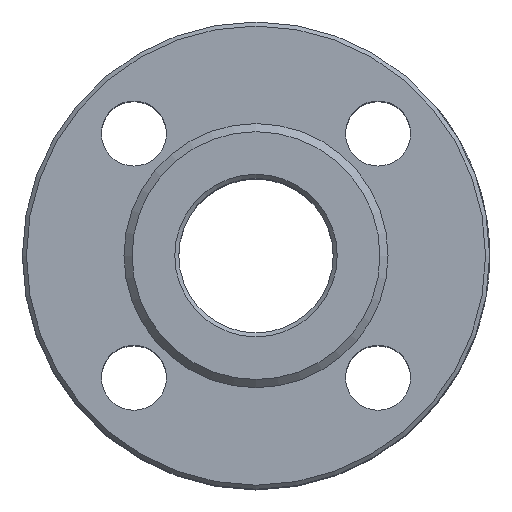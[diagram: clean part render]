
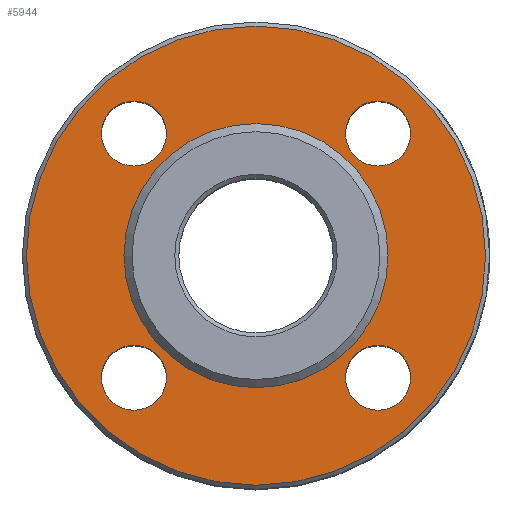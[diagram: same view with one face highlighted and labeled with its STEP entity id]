
A CAD part, top view. The second image highlights one B-rep face of the part: STEP entity #5944.
In plain terms, the highlighted planar face has unit normal (0, 0, 1).
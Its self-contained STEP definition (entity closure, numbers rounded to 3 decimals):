
#218=FACE_BOUND('',#1134,.T.);
#219=FACE_BOUND('',#1135,.T.);
#220=FACE_BOUND('',#1136,.T.);
#221=FACE_BOUND('',#1137,.T.);
#222=FACE_BOUND('',#1138,.T.);
#465=PLANE('',#6493);
#755=FACE_OUTER_BOUND('',#1133,.T.);
#1133=EDGE_LOOP('',(#5037));
#1134=EDGE_LOOP('',(#5038));
#1135=EDGE_LOOP('',(#5039));
#1136=EDGE_LOOP('',(#5040));
#1137=EDGE_LOOP('',(#5041));
#1138=EDGE_LOOP('',(#5042));
#1627=CIRCLE('',#6492,56.5);
#1628=CIRCLE('',#6494,8.);
#1629=CIRCLE('',#6495,8.);
#1630=CIRCLE('',#6496,8.);
#1631=CIRCLE('',#6497,32.5);
#1632=CIRCLE('',#6498,8.);
#2793=VERTEX_POINT('',#12268);
#2794=VERTEX_POINT('',#12272);
#2795=VERTEX_POINT('',#12274);
#2796=VERTEX_POINT('',#12276);
#2797=VERTEX_POINT('',#12278);
#2798=VERTEX_POINT('',#12280);
#3553=EDGE_CURVE('',#2793,#2793,#1627,.T.);
#3554=EDGE_CURVE('',#2794,#2794,#1628,.T.);
#3555=EDGE_CURVE('',#2795,#2795,#1629,.T.);
#3556=EDGE_CURVE('',#2796,#2796,#1630,.T.);
#3557=EDGE_CURVE('',#2797,#2797,#1631,.T.);
#3558=EDGE_CURVE('',#2798,#2798,#1632,.T.);
#5037=ORIENTED_EDGE('',*,*,#3553,.T.);
#5038=ORIENTED_EDGE('',*,*,#3554,.T.);
#5039=ORIENTED_EDGE('',*,*,#3555,.T.);
#5040=ORIENTED_EDGE('',*,*,#3556,.T.);
#5041=ORIENTED_EDGE('',*,*,#3557,.T.);
#5042=ORIENTED_EDGE('',*,*,#3558,.T.);
#5944=ADVANCED_FACE('',(#755,#218,#219,#220,#221,#222),#465,.F.);
#6492=AXIS2_PLACEMENT_3D('',#12270,#7866,#7867);
#6493=AXIS2_PLACEMENT_3D('',#12271,#7868,#7869);
#6494=AXIS2_PLACEMENT_3D('',#12273,#7870,#7871);
#6495=AXIS2_PLACEMENT_3D('',#12275,#7872,#7873);
#6496=AXIS2_PLACEMENT_3D('',#12277,#7874,#7875);
#6497=AXIS2_PLACEMENT_3D('',#12279,#7876,#7877);
#6498=AXIS2_PLACEMENT_3D('',#12281,#7878,#7879);
#7866=DIRECTION('center_axis',(0.,0.,1.));
#7867=DIRECTION('ref_axis',(0.,1.,0.));
#7868=DIRECTION('center_axis',(0.,0.,-1.));
#7869=DIRECTION('ref_axis',(-1.,0.,0.));
#7870=DIRECTION('center_axis',(0.,0.,-1.));
#7871=DIRECTION('ref_axis',(-1.,0.,0.));
#7872=DIRECTION('center_axis',(0.,0.,-1.));
#7873=DIRECTION('ref_axis',(-1.,0.,0.));
#7874=DIRECTION('center_axis',(0.,0.,-1.));
#7875=DIRECTION('ref_axis',(-1.,0.,0.));
#7876=DIRECTION('center_axis',(0.,0.,-1.));
#7877=DIRECTION('ref_axis',(1.,0.,0.));
#7878=DIRECTION('center_axis',(0.,0.,-1.));
#7879=DIRECTION('ref_axis',(-1.,0.,0.));
#12268=CARTESIAN_POINT('',(0.,-56.5,53.));
#12270=CARTESIAN_POINT('Origin',(0.,0.,53.));
#12271=CARTESIAN_POINT('Origin',(0.,0.,53.));
#12272=CARTESIAN_POINT('',(-22.052,-30.052,53.));
#12273=CARTESIAN_POINT('Origin',(-30.052,-30.052,53.));
#12274=CARTESIAN_POINT('',(38.052,-30.052,53.));
#12275=CARTESIAN_POINT('Origin',(30.052,-30.052,53.));
#12276=CARTESIAN_POINT('',(38.052,30.052,53.));
#12277=CARTESIAN_POINT('Origin',(30.052,30.052,53.));
#12278=CARTESIAN_POINT('',(-32.5,0.,53.));
#12279=CARTESIAN_POINT('Origin',(0.,0.,53.));
#12280=CARTESIAN_POINT('',(-22.052,30.052,53.));
#12281=CARTESIAN_POINT('Origin',(-30.052,30.052,53.));
